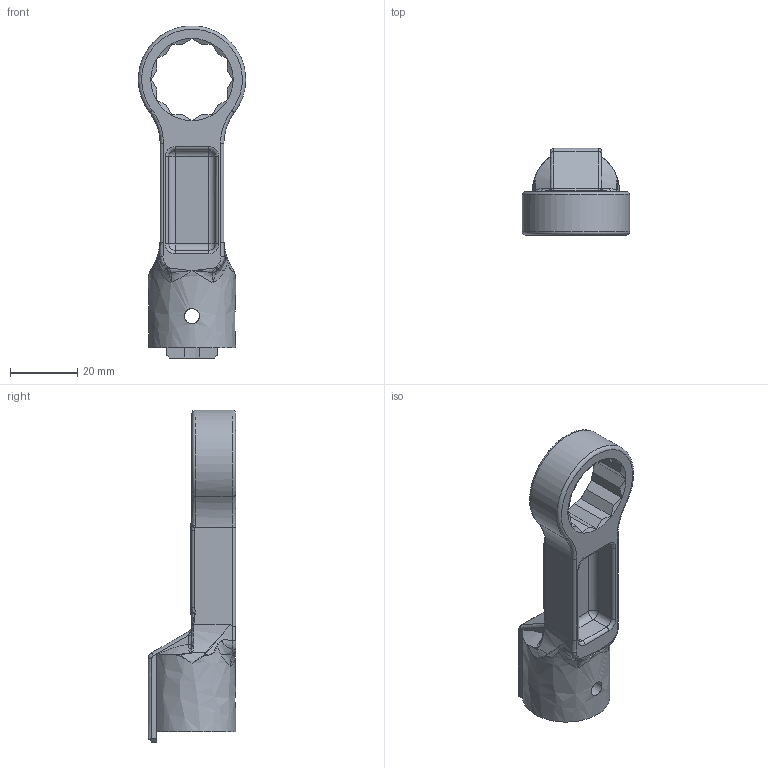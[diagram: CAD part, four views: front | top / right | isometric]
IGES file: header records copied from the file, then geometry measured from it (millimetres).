
Global section: file name: RH19DX21; native system: Autodesk Inventor 2016; preprocessor: unknown; author: q543; date: 20151110.164840; units: millimetre
Bounding box: 32 x 26 x 98.96 mm (x, y, z)
Volume: 19192.9 mm3; surface area: 10173.7 mm2
Topology: 1 solids, 1 shells, 208 faces, 522 edges, 296 vertices
Faces by surface type: bspline 208
